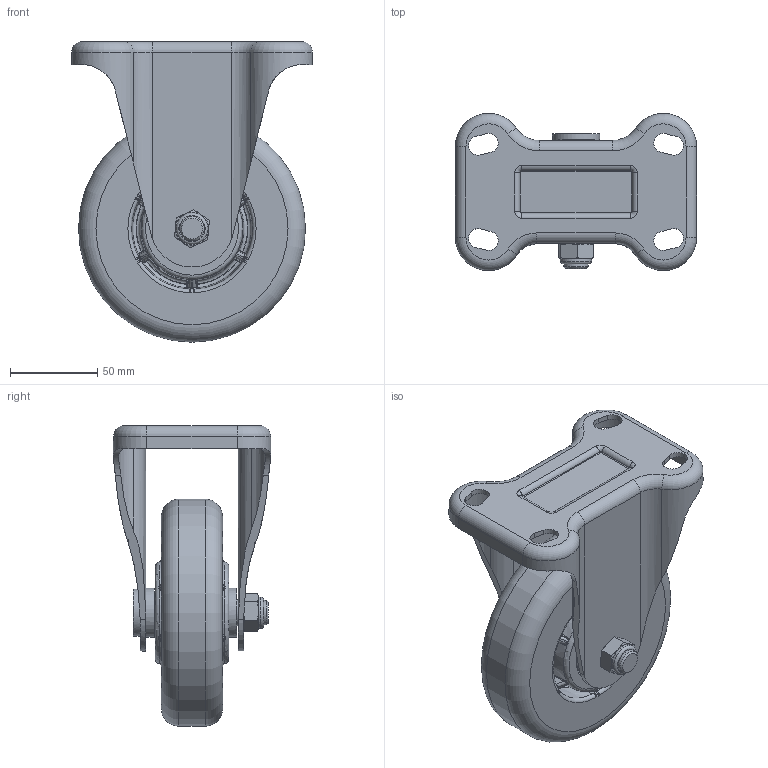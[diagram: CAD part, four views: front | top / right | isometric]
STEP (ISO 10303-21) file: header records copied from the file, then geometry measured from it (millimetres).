
FILE_DESCRIPTION(/* description */ (''),/* implementation_level */ '2;1');
FILE_NAME(/* name */ '25A21_5_F.stp',/* time_stamp */ '2022-08-27T13:04:37+08:00',/* author */ (''),/* organization */ (''),/* preprocessor_version */ 'ST-DEVELOPER v14',/* originating_system */ 'SIEMENS PLM Software NX 8.0',/* authorisation */ '');
FILE_SCHEMA (('AUTOMOTIVE_DESIGN { 1 0 10303 214 3 1 1 1 }'));
Length unit declared in the file: millimetre
Products named in the file (1): 25A21_5_F
Bounding box: 138 x 90 x 172 mm (x, y, z)
Volume: 512053.1 mm3; surface area: 124875.8 mm2
Topology: 1 solids, 2 shells, 797 faces, 1968 edges, 1207 vertices
Faces by surface type: plane 282, bspline 232, cylinder 162, torus 71, cone 50
Full cylindrical faces by diameter (mm): 14 x1, 15 x2, 17 x1, 18 x1, 20.5 x1, 24.188 x3, 27 x1, 28 x2, 32.812 x2, 39.85 x2, 40 x2, 130 x1
Entity records: 26619 total; most frequent: CARTESIAN_POINT 9931, ORIENTED_EDGE 3810, DIRECTION 2995, EDGE_CURVE 1905, AXIS2_PLACEMENT_3D 1258, VERTEX_POINT 1182, EDGE_LOOP 883, ADVANCED_FACE 797
